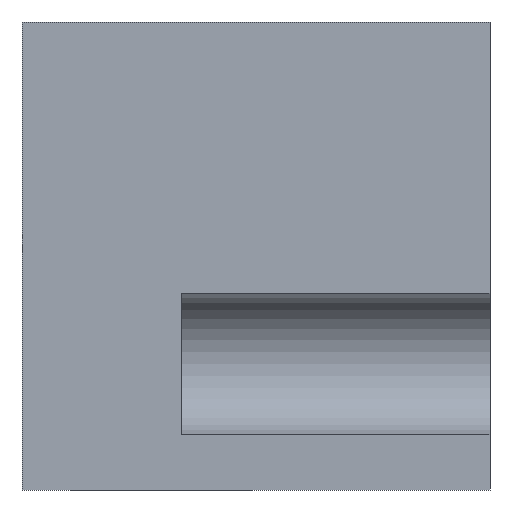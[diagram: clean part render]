
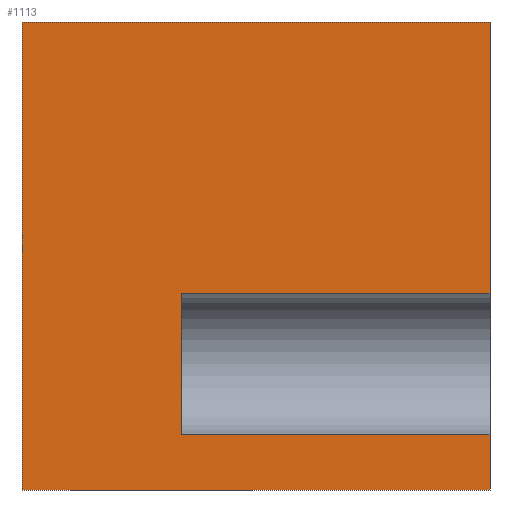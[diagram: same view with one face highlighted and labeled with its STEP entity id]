
A CAD part, front view. The second image highlights one B-rep face of the part: STEP entity #1113.
In plain terms, the highlighted planar face has unit normal (0, -1, 0).
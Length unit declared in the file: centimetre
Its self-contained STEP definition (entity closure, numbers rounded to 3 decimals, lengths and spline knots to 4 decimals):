
#31 = VERTEX_POINT ( 'NONE', #697 ) ;
#65 = DIRECTION ( 'NONE',  ( 1., 0., 0. ) ) ;
#75 = DIRECTION ( 'NONE',  ( 0., 1., 0. ) ) ;
#83 = FACE_OUTER_BOUND ( 'NONE', #90, .T. ) ;
#90 = EDGE_LOOP ( 'NONE', ( #1106, #858, #1108, #462, #753, #293, #677, #951 ) ) ;
#115 = DIRECTION ( 'NONE',  ( 1., 0., 0. ) ) ;
#118 = EDGE_CURVE ( 'NONE', #1028, #486, #606, .T. ) ;
#131 = VECTOR ( 'NONE', #65, 100. ) ;
#136 = CARTESIAN_POINT ( 'NONE',  ( 339.8252, 0., 118.3354 ) ) ;
#171 = PLANE ( 'NONE',  #758 ) ;
#209 = EDGE_CURVE ( 'NONE', #460, #1103, #732, .T. ) ;
#238 = CARTESIAN_POINT ( 'NONE',  ( 1000., 0., 1000. ) ) ;
#255 = LINE ( 'NONE', #238, #533 ) ;
#272 = CARTESIAN_POINT ( 'NONE',  ( 339.8252, 0., 118.3354 ) ) ;
#293 = ORIENTED_EDGE ( 'NONE', *, *, #118, .T. ) ;
#379 = VECTOR ( 'NONE', #115, 100. ) ;
#385 = EDGE_CURVE ( 'NONE', #31, #966, #255, .T. ) ;
#392 = LINE ( 'NONE', #539, #807 ) ;
#402 = EDGE_CURVE ( 'NONE', #604, #966, #1065, .T. ) ;
#403 = CARTESIAN_POINT ( 'NONE',  ( 0., 0., 1000. ) ) ;
#429 = DIRECTION ( 'NONE',  ( 0., 0., -1. ) ) ;
#435 = CARTESIAN_POINT ( 'NONE',  ( 339.8252, 0., 1000. ) ) ;
#460 = VERTEX_POINT ( 'NONE', #136 ) ;
#462 = ORIENTED_EDGE ( 'NONE', *, *, #478, .F. ) ;
#478 = EDGE_CURVE ( 'NONE', #862, #31, #481, .T. ) ;
#481 = LINE ( 'NONE', #403, #379 ) ;
#486 = VERTEX_POINT ( 'NONE', #855 ) ;
#514 = VECTOR ( 'NONE', #429, 100. ) ;
#533 = VECTOR ( 'NONE', #987, 100. ) ;
#539 = CARTESIAN_POINT ( 'NONE',  ( 0., 0., 1000. ) ) ;
#604 = VERTEX_POINT ( 'NONE', #765 ) ;
#606 = LINE ( 'NONE', #975, #1162 ) ;
#614 = CARTESIAN_POINT ( 'NONE',  ( 339.8252, 0., 420.1149 ) ) ;
#631 = VECTOR ( 'NONE', #983, 100. ) ;
#649 = CARTESIAN_POINT ( 'NONE',  ( 0., 0., 0. ) ) ;
#667 = CARTESIAN_POINT ( 'NONE',  ( 1000., 0., 420.1149 ) ) ;
#677 = ORIENTED_EDGE ( 'NONE', *, *, #702, .F. ) ;
#697 = CARTESIAN_POINT ( 'NONE',  ( 1000., 0., 1000. ) ) ;
#698 = DIRECTION ( 'NONE',  ( 1., 0., 0. ) ) ;
#702 = EDGE_CURVE ( 'NONE', #1103, #486, #1073, .T. ) ;
#709 = CARTESIAN_POINT ( 'NONE',  ( 1000., 0., 118.3354 ) ) ;
#732 = LINE ( 'NONE', #272, #1144 ) ;
#753 = ORIENTED_EDGE ( 'NONE', *, *, #891, .T. ) ;
#758 = AXIS2_PLACEMENT_3D ( 'NONE', #991, #75, #985 ) ;
#762 = CARTESIAN_POINT ( 'NONE',  ( 0., 0., 1000. ) ) ;
#765 = CARTESIAN_POINT ( 'NONE',  ( 339.8252, 0., 420.1149 ) ) ;
#778 = EDGE_CURVE ( 'NONE', #604, #460, #893, .T. ) ;
#804 = CARTESIAN_POINT ( 'NONE',  ( 1000., 0., 1000. ) ) ;
#807 = VECTOR ( 'NONE', #911, 100. ) ;
#855 = CARTESIAN_POINT ( 'NONE',  ( 1000., 0., 0. ) ) ;
#858 = ORIENTED_EDGE ( 'NONE', *, *, #402, .T. ) ;
#862 = VERTEX_POINT ( 'NONE', #762 ) ;
#891 = EDGE_CURVE ( 'NONE', #862, #1028, #392, .T. ) ;
#893 = LINE ( 'NONE', #435, #631 ) ;
#911 = DIRECTION ( 'NONE',  ( 0., 0., -1. ) ) ;
#919 = DIRECTION ( 'NONE',  ( 1., 0., 0. ) ) ;
#951 = ORIENTED_EDGE ( 'NONE', *, *, #209, .F. ) ;
#966 = VERTEX_POINT ( 'NONE', #667 ) ;
#975 = CARTESIAN_POINT ( 'NONE',  ( 0., 0., 0. ) ) ;
#983 = DIRECTION ( 'NONE',  ( 0., 0., -1. ) ) ;
#985 = DIRECTION ( 'NONE',  ( 0., 0., 1. ) ) ;
#987 = DIRECTION ( 'NONE',  ( 0., 0., -1. ) ) ;
#991 = CARTESIAN_POINT ( 'NONE',  ( 0., 0., 1000. ) ) ;
#1028 = VERTEX_POINT ( 'NONE', #649 ) ;
#1065 = LINE ( 'NONE', #614, #131 ) ;
#1073 = LINE ( 'NONE', #804, #514 ) ;
#1103 = VERTEX_POINT ( 'NONE', #709 ) ;
#1106 = ORIENTED_EDGE ( 'NONE', *, *, #778, .F. ) ;
#1108 = ORIENTED_EDGE ( 'NONE', *, *, #385, .F. ) ;
#1113 = ADVANCED_FACE ( 'NONE', ( #83 ), #171, .F. ) ;
#1144 = VECTOR ( 'NONE', #919, 100. ) ;
#1162 = VECTOR ( 'NONE', #698, 100. ) ;
